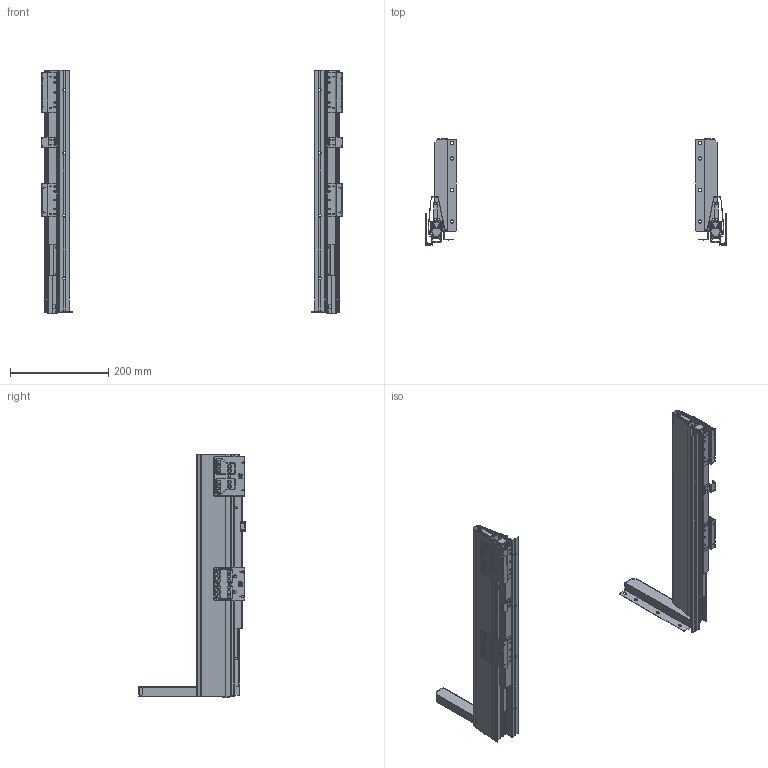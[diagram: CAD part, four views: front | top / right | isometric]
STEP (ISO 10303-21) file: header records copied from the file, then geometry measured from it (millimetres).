
FILE_DESCRIPTION(/* description */ (''),/* implementation_level */ '2;1');
FILE_NAME(/* name */ 'C:/Users/smeja/Desktop/PRACOVNÍ/StrongBox_3D/Výška 204 - 500 mm Š + B - 276484 a 276485 a 179271 a 146773.step',/* time_stamp */ '2019-05-30T08:00:44+02:00',/* author */ (''),/* organization */ (''),/* preprocessor_version */ 'ST-DEVELOPER v18',/* originating_system */ 'Autodesk Translation Framework v8.2.0.1029',/* authorisation */ '');
FILE_SCHEMA (('AUTOMOTIVE_DESIGN { 1 0 10303 214 3 1 1 }'));
Products named in the file (1): (Unsaved)
Bounding box: 613.19 x 217.22 x 497 mm (x, y, z)
Volume: 460733.5 mm3; surface area: 973480.1 mm2
Topology: 24 solids, 24 shells, 2888 faces, 7781 edges, 5052 vertices
Faces by surface type: plane 1590, cylinder 954, cone 176, bspline 72, torus 68, sphere 28
Entity records: 93929 total; most frequent: CARTESIAN_POINT 19871, ORIENTED_EDGE 15512, DIRECTION 15384, EDGE_CURVE 7756, LINE 5242, VECTOR 5242, AXIS2_PLACEMENT_3D 5071, VERTEX_POINT 5052
